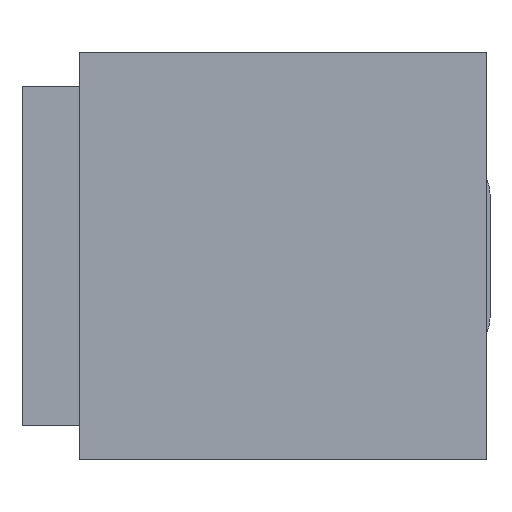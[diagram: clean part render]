
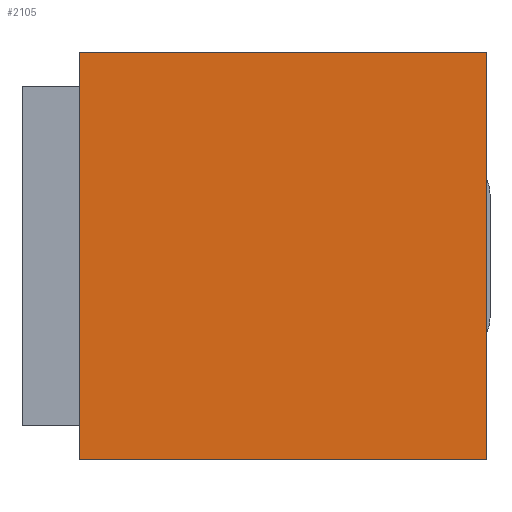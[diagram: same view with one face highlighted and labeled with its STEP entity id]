
A CAD part, left-side view. The second image highlights one B-rep face of the part: STEP entity #2105.
In plain terms, the highlighted planar face has unit normal (-1, 0, 0).
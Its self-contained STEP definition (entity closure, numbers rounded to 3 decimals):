
#52 = EDGE_LOOP ( 'NONE', ( #2185, #4282, #1636, #3782 ) ) ;
#82 = VERTEX_POINT ( 'NONE', #1537 ) ;
#206 = CARTESIAN_POINT ( 'NONE',  ( -60., 120., 60. ) ) ;
#704 = EDGE_CURVE ( 'NONE', #1715, #921, #4393, .T. ) ;
#921 = VERTEX_POINT ( 'NONE', #3210 ) ;
#940 = AXIS2_PLACEMENT_3D ( 'NONE', #2732, #3078, #1072 ) ;
#1052 = EDGE_CURVE ( 'NONE', #921, #82, #1513, .T. ) ;
#1072 = DIRECTION ( 'NONE',  ( 0., 0., -1. ) ) ;
#1513 = LINE ( 'NONE', #1901, #3199 ) ;
#1536 = VECTOR ( 'NONE', #2227, 1000. ) ;
#1537 = CARTESIAN_POINT ( 'NONE',  ( -60., 0., 60. ) ) ;
#1570 = CARTESIAN_POINT ( 'NONE',  ( -60., 120., -60. ) ) ;
#1636 = ORIENTED_EDGE ( 'NONE', *, *, #2367, .F. ) ;
#1715 = VERTEX_POINT ( 'NONE', #2664 ) ;
#1901 = CARTESIAN_POINT ( 'NONE',  ( -60., 0., 60. ) ) ;
#2105 = ADVANCED_FACE ( 'NONE', ( #4307 ), #2399, .F. ) ;
#2185 = ORIENTED_EDGE ( 'NONE', *, *, #704, .T. ) ;
#2227 = DIRECTION ( 'NONE',  ( 0., -1., 0. ) ) ;
#2235 = DIRECTION ( 'NONE',  ( 0., 0., 1. ) ) ;
#2316 = LINE ( 'NONE', #2607, #3214 ) ;
#2367 = EDGE_CURVE ( 'NONE', #4373, #82, #3329, .T. ) ;
#2399 = PLANE ( 'NONE',  #940 ) ;
#2565 = VECTOR ( 'NONE', #2908, 1000. ) ;
#2607 = CARTESIAN_POINT ( 'NONE',  ( -60., 120., 60. ) ) ;
#2664 = CARTESIAN_POINT ( 'NONE',  ( -60., 120., -60. ) ) ;
#2732 = CARTESIAN_POINT ( 'NONE',  ( -60., 120., 60. ) ) ;
#2908 = DIRECTION ( 'NONE',  ( 0., -1., 0. ) ) ;
#2932 = EDGE_CURVE ( 'NONE', #1715, #4373, #2316, .T. ) ;
#2971 = DIRECTION ( 'NONE',  ( 0., 0., 1. ) ) ;
#3078 = DIRECTION ( 'NONE',  ( 1., 0., 0. ) ) ;
#3199 = VECTOR ( 'NONE', #2235, 1000. ) ;
#3210 = CARTESIAN_POINT ( 'NONE',  ( -60., 0., -60. ) ) ;
#3214 = VECTOR ( 'NONE', #2971, 1000. ) ;
#3329 = LINE ( 'NONE', #206, #1536 ) ;
#3770 = CARTESIAN_POINT ( 'NONE',  ( -60., 120., 60. ) ) ;
#3782 = ORIENTED_EDGE ( 'NONE', *, *, #2932, .F. ) ;
#4282 = ORIENTED_EDGE ( 'NONE', *, *, #1052, .T. ) ;
#4307 = FACE_OUTER_BOUND ( 'NONE', #52, .T. ) ;
#4373 = VERTEX_POINT ( 'NONE', #3770 ) ;
#4393 = LINE ( 'NONE', #1570, #2565 ) ;
